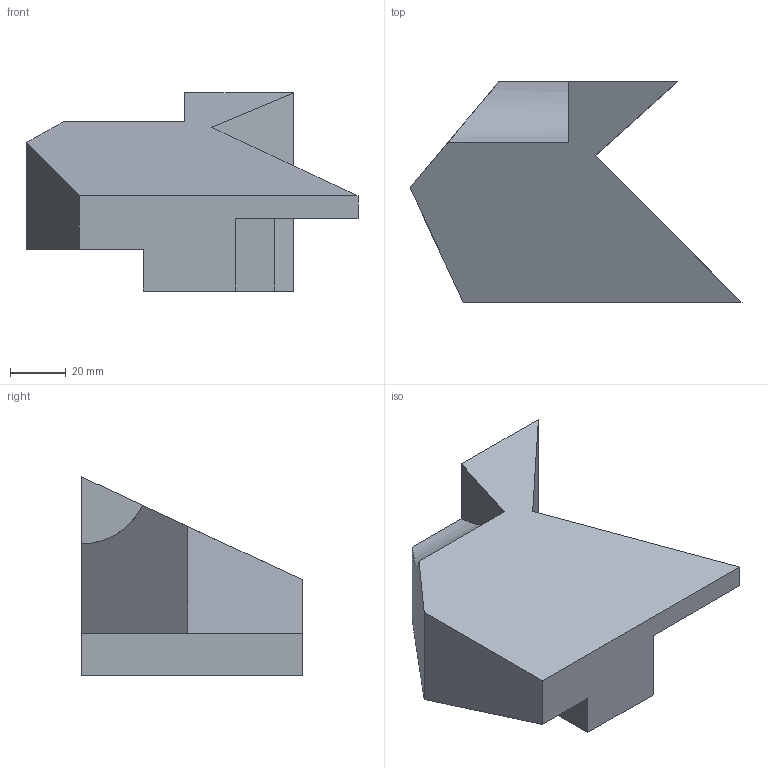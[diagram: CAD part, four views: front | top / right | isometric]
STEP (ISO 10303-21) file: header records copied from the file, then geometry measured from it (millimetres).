
FILE_DESCRIPTION(/* description */ (''),/* implementation_level */ '2;1');
FILE_NAME(/* name */ '750904R1006.stp',/* time_stamp */ '2025-09-20T10:14:42+09:00',/* author */ ('PC-13'),/* organization */ (''),/* preprocessor_version */ 'ST-DEVELOPER v20',/* originating_system */ 'Autodesk Inventor 2025',/* authorisation */ '');
FILE_SCHEMA (('AUTOMOTIVE_DESIGN { 1 0 10303 214 3 1 1 }'));
Length unit declared in the file: millimetre
Products named in the file (1): 부품1
Bounding box: 119 x 79 x 71 mm (x, y, z)
Volume: 237415.2 mm3; surface area: 29301.8 mm2
Topology: 1 solids, 1 shells, 15 faces, 39 edges, 26 vertices
Faces by surface type: plane 14, cylinder 1
Entity records: 498 total; most frequent: CARTESIAN_POINT 81, ORIENTED_EDGE 78, DIRECTION 73, EDGE_CURVE 39, LINE 37, VECTOR 37, VERTEX_POINT 26, AXIS2_PLACEMENT_3D 18
